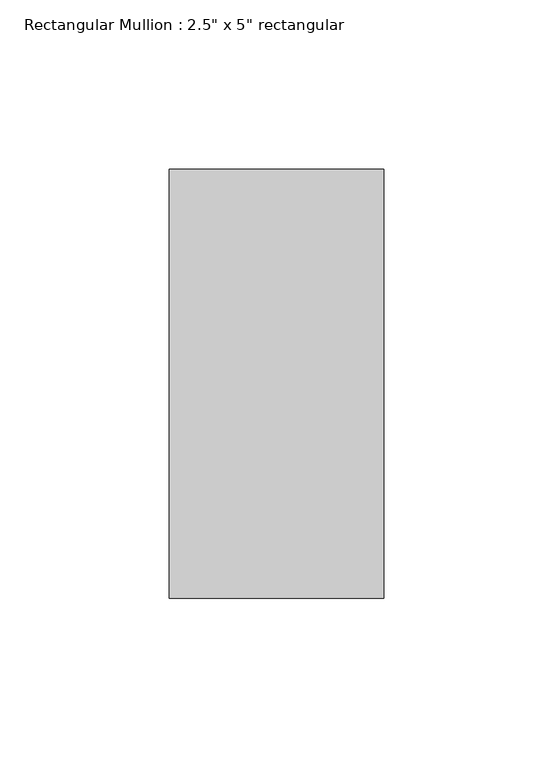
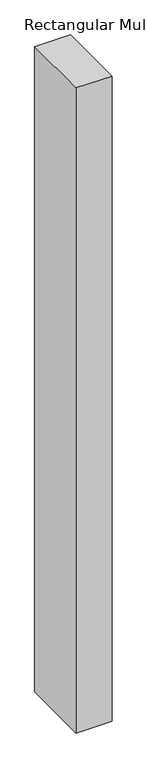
"""IFC4 building model written with IfcOpenShell, lengths in millimetres: member geometry."""

from ifc_helpers import new_model, si_unit, frame, origin, place, context, project, spatial, polyline, outline, extrude, source, transform, mapped, element, save


def member_39b5eb81(model_context):
    return source(origin(), model_context, "Body", "SweptSolid", [
        extrude(outline(polyline([(0.0, 63.5), (0.0, -63.5), (-63.5, -63.5), (-63.5, 63.5), (0.0, 63.5)])), frame((0.0, 0.0, -1206.5765619), z_axis=(0.0, 0.0, 1.0), x_axis=(1.0, 0.0, 0.0)), (0.0, 0.0, 1.0), 1206.5765619),
    ])


if __name__ == "__main__":
    model = new_model("IFC4")
    model_context = context("Model", 3, world=origin())
    ifc_project = project(units=[si_unit("LENGTHUNIT", "METRE", prefix="MILLI")], contexts=[model_context])
    site = spatial("IfcSite", under=ifc_project)
    building = spatial("IfcBuilding", under=site)
    placement = place(None, origin())
    member_shape = member_39b5eb81(model_context)
    element("IfcMember", 1, ObjectType="Rectangular Mullion : 2.5\" x 5\" rectangular", at=placement, inside=building, context=model_context, shape_type="MappedRepresentation", body=[
        mapped(member_shape, transform((0.0, 0.0, 0.0), x_axis=(1.0, 0.0, 0.0), y_axis=(0.0, 1.0, 0.0), z_axis=(0.0, 0.0, 1.0))),
    ])
    save(model, "model.ifc")
